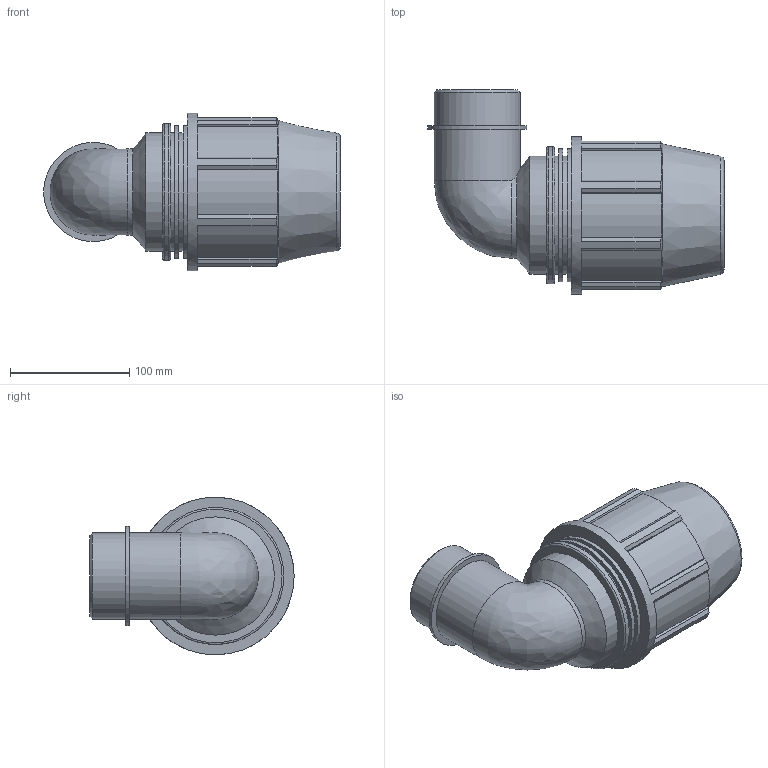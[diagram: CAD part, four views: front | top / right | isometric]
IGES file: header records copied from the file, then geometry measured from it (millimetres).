
Global section: file name: 878500075025_188500075025.ipt; native system: Autodesk Inventor 2015; preprocessor: unknown; author: KIM; date: 20170608.042801; units: millimetre
Bounding box: 248.53 x 171 x 132 mm (x, y, z)
Volume: 1369668 mm3; surface area: 181664.8 mm2
Topology: 1 solids, 1 shells, 85 faces, 225 edges, 150 vertices
Faces by surface type: plane 52, cylinder 19, revolution 9, cone 4, bspline 1
Full cylindrical faces by diameter (mm): 72.226 x2, 83.06 x1, 99 x3, 111.395 x2, 114.84 x1, 132 x1
